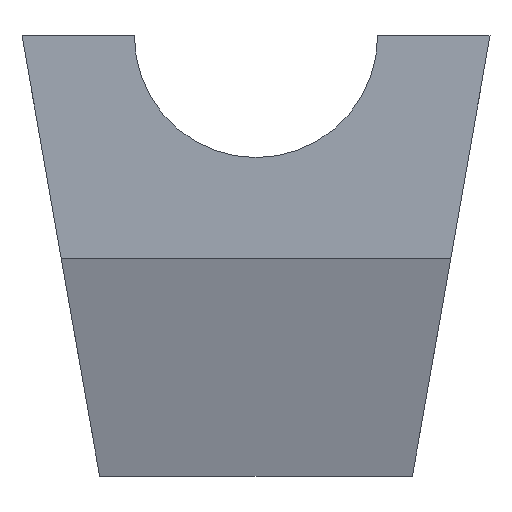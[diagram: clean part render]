
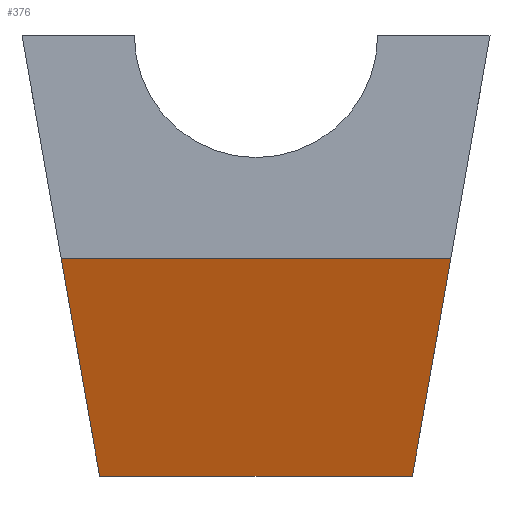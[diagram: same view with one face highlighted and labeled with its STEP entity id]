
A CAD part, left-side view. The second image highlights one B-rep face of the part: STEP entity #376.
In plain terms, the highlighted planar face has unit normal (-0.956, 0, -0.292).
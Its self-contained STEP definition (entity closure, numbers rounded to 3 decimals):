
#37=LINE('',#595,#76);
#50=LINE('',#624,#89);
#53=LINE('',#630,#92);
#55=LINE('',#633,#94);
#76=VECTOR('',#486,10.);
#89=VECTOR('',#515,10.);
#92=VECTOR('',#522,10.);
#94=VECTOR('',#526,10.);
#120=FACE_OUTER_BOUND('',#143,.T.);
#143=EDGE_LOOP('',(#332,#333,#334,#335));
#179=VERTEX_POINT('',#592);
#180=VERTEX_POINT('',#594);
#188=VERTEX_POINT('',#623);
#189=VERTEX_POINT('',#629);
#220=EDGE_CURVE('',#180,#179,#37,.T.);
#235=EDGE_CURVE('',#180,#188,#50,.T.);
#238=EDGE_CURVE('',#189,#188,#53,.T.);
#240=EDGE_CURVE('',#189,#179,#55,.T.);
#332=ORIENTED_EDGE('',*,*,#220,.T.);
#333=ORIENTED_EDGE('',*,*,#240,.F.);
#334=ORIENTED_EDGE('',*,*,#238,.T.);
#335=ORIENTED_EDGE('',*,*,#235,.F.);
#356=PLANE('',#422);
#376=ADVANCED_FACE('',(#120),#356,.T.);
#422=AXIS2_PLACEMENT_3D('',#632,#524,#525);
#486=DIRECTION('',(0.,1.,0.));
#515=DIRECTION('',(0.288,0.166,-0.943));
#522=DIRECTION('',(0.,-1.,0.));
#524=DIRECTION('center_axis',(-0.956,0.,-0.292));
#525=DIRECTION('ref_axis',(-0.292,0.,0.956));
#526=DIRECTION('',(-0.288,0.166,0.943));
#592=CARTESIAN_POINT('',(-108.,33.633,37.619));
#594=CARTESIAN_POINT('',(-108.,-33.633,37.619));
#595=CARTESIAN_POINT('',(-108.,0.,37.619));
#623=CARTESIAN_POINT('',(-96.499,-27.,0.));
#624=CARTESIAN_POINT('',(-99.33,-28.633,9.262));
#629=CARTESIAN_POINT('',(-96.499,27.,0.));
#630=CARTESIAN_POINT('',(-96.499,0.,0.));
#632=CARTESIAN_POINT('Origin',(-96.499,0.,0.));
#633=CARTESIAN_POINT('',(-99.33,28.633,9.262));
